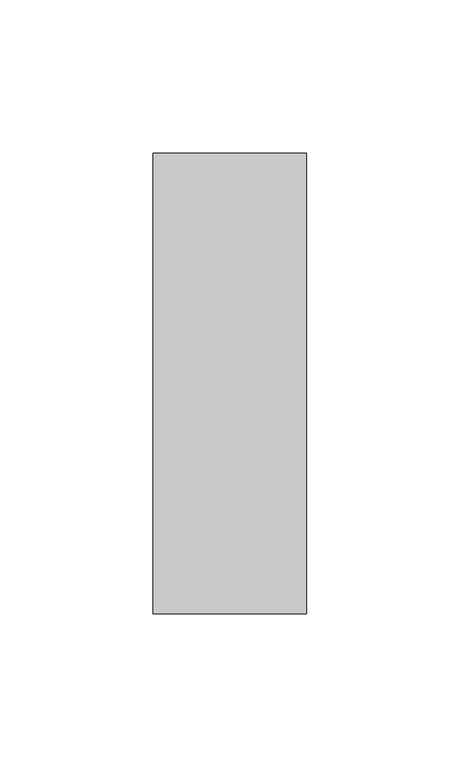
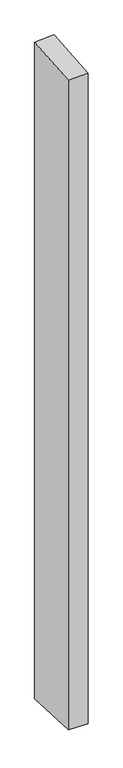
"""IFC4 building model written with IfcOpenShell, lengths in millimetres: member geometry, Прямоугольный импост : 50 x 150 мм."""

import ifcopenshell
import ifcopenshell.guid

model = None  # the IFC model being written
_history = None  # IfcOwnerHistory: only IFC2X3 demands one
_inside = {}  # id of a spatial element -> (the spatial element, [elements in it])
_under = {}  # id of a project, library or spatial element -> (it, [spatial elements below it])
_declared = {}  # id of a project -> (the project, [libraries it declares])
_typed = {}  # id of a type object -> (the type object, [elements of that type])
_made_of = {}  # id of a material, layer set ... -> (it, [elements and type objects made of it])


def new_model(schema):
    """Start an empty IFC model of exactly this schema.

    Asked for "IFC4X3", IfcOpenShell would pick the latest addendum, in which some entities
    have other attributes; the version numbers below select the first issue.
    IFC2X3 requires an IfcOwnerHistory on every rooted entity: one is made here for all.
    """
    global model, _history
    if schema == "IFC4X3":
        model = ifcopenshell.file(schema_version=(4, 3, 0, 0))
    else:
        model = ifcopenshell.file(schema=schema)
    _inside.clear()
    _under.clear()
    _declared.clear()
    _typed.clear()
    _made_of.clear()
    _history = None
    if model.schema == "IFC2X3":
        org = make("IfcOrganization", Name="unknown")
        user = make(
            "IfcPersonAndOrganization",
            ThePerson=make("IfcPerson", FamilyName="unknown"),
            TheOrganization=org,
        )
        app = make(
            "IfcApplication",
            ApplicationDeveloper=org,
            Version="unknown",
            ApplicationFullName="unknown",
            ApplicationIdentifier="unknown",
        )
        _history = make(
            "IfcOwnerHistory",
            OwningUser=user,
            OwningApplication=app,
            ChangeAction="ADDED",
            CreationDate=0,
        )
    return model


def make(cls, **values):
    """One entity of the class cls with the attributes given. An attribute that is None is left unset."""
    return model.create_entity(
        cls, **{name: value for name, value in values.items() if value is not None}
    )


def rooted(cls, **values):
    """An entity with a GlobalId (a new one), such as an element, a storey or a relation."""
    return make(cls, GlobalId=ifcopenshell.guid.new(), OwnerHistory=_history, **values)


def si_unit(unit_type, name, prefix=None):
    """IfcSIUnit, for example si_unit("LENGTHUNIT", "METRE", prefix="MILLI")."""
    return make("IfcSIUnit", UnitType=unit_type, Prefix=prefix, Name=name)


def assignment(units):
    """IfcUnitAssignment: the units of a project."""
    return None if units is None else make("IfcUnitAssignment", Units=units)


def point(xyz):
    """IfcCartesianPoint."""
    return None if xyz is None else make("IfcCartesianPoint", Coordinates=xyz)


def direction(xyz):
    """IfcDirection."""
    return None if xyz is None else make("IfcDirection", DirectionRatios=xyz)


def frame(location, z_axis=None, x_axis=None):
    """IfcAxis2Placement3D, a coordinate frame: its origin and axes. An axis left out is left unset."""
    return make(
        "IfcAxis2Placement3D",
        Location=point(location),
        Axis=direction(z_axis),
        RefDirection=direction(x_axis),
    )


def origin():
    """The frame at (0, 0, 0) with its axes left unset."""
    return frame((0.0, 0.0, 0.0))


def place(relative_to, where):
    """IfcLocalPlacement: puts the frame where relative to a parent placement (None: the world)."""
    return make(
        "IfcLocalPlacement", PlacementRelTo=relative_to, RelativePlacement=where
    )


def context(
    kind, dimensions, precision=None, world=None, true_north=None, identifier=None
):
    """IfcGeometricRepresentationContext, for example the 3D "Model" context."""
    return make(
        "IfcGeometricRepresentationContext",
        ContextIdentifier=identifier,
        ContextType=kind,
        CoordinateSpaceDimension=dimensions,
        Precision=precision,
        WorldCoordinateSystem=world,
        TrueNorth=true_north,
    )


def project(units=None, contexts=None):
    """IfcProject with its units and contexts."""
    return rooted(
        "IfcProject",
        Name="project",
        RepresentationContexts=contexts,
        UnitsInContext=assignment(units),
    )


def spatial(cls, under=None, at=None, **own):
    """A site, building, storey or space (cls), placed at a placement, below another one or the project."""
    s = rooted(cls, ObjectPlacement=at, **own)
    if under is not None:
        _under.setdefault(under.id(), (under, []))[1].append(s)
    return s


def faces_of(points, faces, orient=None, outer=None):
    """IfcFace entities. A face is a list of loops; a loop is a list of indices into points, from 0.

    orient and outer hold one flag for each loop. By default every Orientation is true, the
    first loop of a face is its IfcFaceOuterBound and the others are IfcFaceBound.
    """
    made = []
    for i, loops in enumerate(faces):
        bounds = []
        for j, loop in enumerate(loops):
            is_outer = j == 0 if outer is None else outer[i][j]
            bounds.append(
                make(
                    "IfcFaceOuterBound" if is_outer else "IfcFaceBound",
                    Bound=make("IfcPolyLoop", Polygon=[points[k] for k in loop]),
                    Orientation=True if orient is None else orient[i][j],
                )
            )
        made.append(make("IfcFace", Bounds=bounds))
    return made


def faceted_brep(points, faces, orient=None, outer=None, voids=None):
    """IfcFacetedBrep: a solid bounded by flat faces; with voids (closed shells), ...WithVoids."""
    shared = [point(p) for p in points]
    hull = make("IfcClosedShell", CfsFaces=faces_of(shared, faces, orient, outer))
    if voids is None:
        return make("IfcFacetedBrep", Outer=hull)
    return make(
        "IfcFacetedBrepWithVoids",
        Outer=hull,
        Voids=[
            make(cls, CfsFaces=faces_of(shared, fs, o, b)) for cls, fs, o, b in voids
        ],
    )


def shape(context_of_items, identifier, shape_type, items):
    """IfcShapeRepresentation: the items that make up one representation, for example the "Body"."""
    return make(
        "IfcShapeRepresentation",
        ContextOfItems=context_of_items,
        RepresentationIdentifier=identifier,
        RepresentationType=shape_type,
        Items=items,
    )


def source(mapping_origin, context_of_items, identifier, shape_type, items):
    """IfcRepresentationMap: a shape defined once, which mapped items show again and again."""
    return make(
        "IfcRepresentationMap",
        MappingOrigin=mapping_origin,
        MappedRepresentation=shape(context_of_items, identifier, shape_type, items),
    )


def transform(
    local_origin,
    x_axis=None,
    y_axis=None,
    z_axis=None,
    scale=None,
    scale2=None,
    scale3=None,
    uniform=True,
):
    """IfcCartesianTransformationOperator3D, or its non-uniform kind. x_axis, y_axis, z_axis: its Axis1, 2, 3."""
    if uniform:
        return make(
            "IfcCartesianTransformationOperator3D",
            Axis1=direction(x_axis),
            Axis2=direction(y_axis),
            LocalOrigin=point(local_origin),
            Scale=scale,
            Axis3=direction(z_axis),
        )
    return make(
        "IfcCartesianTransformationOperator3DnonUniform",
        Axis1=direction(x_axis),
        Axis2=direction(y_axis),
        LocalOrigin=point(local_origin),
        Scale=scale,
        Axis3=direction(z_axis),
        Scale2=scale2,
        Scale3=scale3,
    )


def mapped(mapping_source, mapping_target):
    """IfcMappedItem: shows the shape of a source again, moved by a transform."""
    return make(
        "IfcMappedItem", MappingSource=mapping_source, MappingTarget=mapping_target
    )


def made_of(thing, what):
    """Note that an element or type object is made of a material, layer set ...; save() writes the relation."""
    if what is not None:
        _made_of.setdefault(what.id(), (what, []))[1].append(thing)
    return thing


def element(
    cls,
    number,
    at=None,
    inside=None,
    cuts=None,
    type_object=None,
    material=None,
    context=None,
    identifier="Body",
    shape_type=None,
    held_by="IfcProductDefinitionShape",
    body=None,
    shapes=None,
    **own,
):
    """One element of the class cls, such as IfcWall. Its Tag is "e" and its number.

    at: its placement. inside: the storey or other place that contains it. cuts: it is an
    opening in that element (IfcRelVoidsElement). A single representation is given by context,
    identifier, shape_type and body (its items); several are given by shapes. held_by: the class
    of the entity that holds the representations. save() writes the other relations.
    """
    e = rooted(cls, Tag="e%d" % number, ObjectPlacement=at, **own)
    if body is not None:
        shapes = [shape(context, identifier, shape_type, body)]
    if shapes is not None:
        e.Representation = make(held_by, Representations=shapes)
    if inside is not None:
        _inside.setdefault(inside.id(), (inside, []))[1].append(e)
    if cuts is not None:
        rooted(
            "IfcRelVoidsElement", RelatingBuildingElement=cuts, RelatedOpeningElement=e
        )
    if type_object is not None:
        _typed.setdefault(type_object.id(), (type_object, []))[1].append(e)
    return made_of(e, material)


def aggregate(whole, parts):
    """IfcRelAggregates: a whole, such as a stair, and the parts it consists of."""
    return rooted("IfcRelAggregates", RelatingObject=whole, RelatedObjects=parts)


def save(model, path):
    """Write the relations noted so far, then the file.

    IfcRelAggregates (storeys below a building ...), IfcRelContainedInSpatialStructure (elements
    in a storey), IfcRelDefinesByType, IfcRelAssociatesMaterial and IfcRelDeclares: one each for
    every whole, place, type object, material and project.
    """
    for whole, parts in _under.values():
        aggregate(whole, parts)
    for where, things in _inside.values():
        rooted(
            "IfcRelContainedInSpatialStructure",
            RelatedElements=things,
            RelatingStructure=where,
        )
    for kind, things in _typed.values():
        rooted("IfcRelDefinesByType", RelatedObjects=things, RelatingType=kind)
    for what, things in _made_of.values():
        rooted("IfcRelAssociatesMaterial", RelatedObjects=things, RelatingMaterial=what)
    for by, libraries in _declared.values():
        rooted("IfcRelDeclares", RelatingContext=by, RelatedDefinitions=libraries)
    model.write(path)


def member_4e796296(model_context):
    return source(origin(), model_context, "Body", "Brep", [
        faceted_brep([(-25.0, 75.0, 4.8650322), (25.0, 75.0, 7.3223552), (25.0, 75.0, -1773.8608937), (-25.0, 75.0, -1771.9871829), (-25.0, -75.0, -7.3223552), (-25.0, -75.0, -1764.1893546), (25.0, -75.0, -4.8650322), (25.0, -75.0, -1766.0630654)], [[[0, 1, 2, 3]], [[4, 0, 3, 5]], [[6, 4, 5, 7]], [[1, 6, 7, 2]], [[1, 0, 4, 6]], [[2, 7, 5, 3]]]),
    ])


if __name__ == "__main__":
    model = new_model("IFC4")
    model_context = context("Model", 3, world=origin())
    ifc_project = project(units=[si_unit("LENGTHUNIT", "METRE", prefix="MILLI")], contexts=[model_context])
    site = spatial("IfcSite", under=ifc_project)
    building = spatial("IfcBuilding", under=site)
    placement = place(None, origin())
    member_shape = member_4e796296(model_context)
    element("IfcMember", 1, ObjectType="Прямоугольный импост : 50 x 150 мм", at=placement, inside=building, context=model_context, shape_type="MappedRepresentation", body=[
        mapped(member_shape, transform((0.0, 0.0, 0.0), x_axis=(1.0, 0.0, 0.0), y_axis=(0.0, 1.0, 0.0), z_axis=(0.0, 0.0, 1.0))),
    ])
    save(model, "model.ifc")
